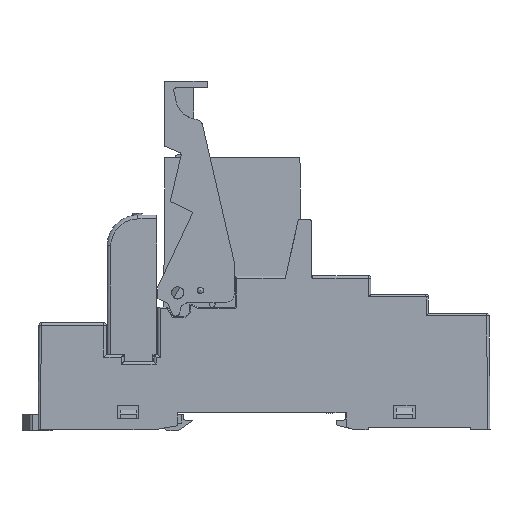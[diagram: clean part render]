
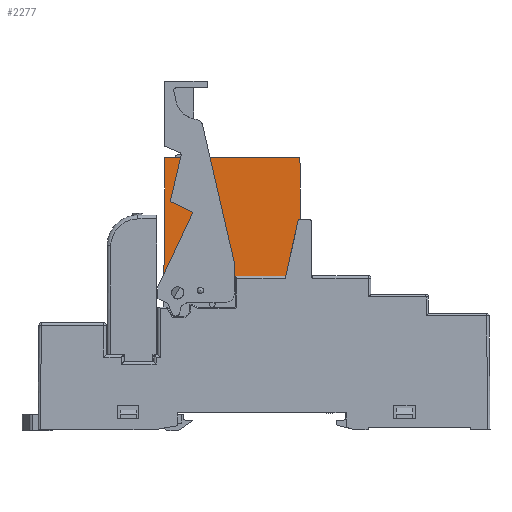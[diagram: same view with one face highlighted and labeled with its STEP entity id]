
A CAD part, front view. The second image highlights one B-rep face of the part: STEP entity #2277.
In plain terms, the highlighted planar face has unit normal (0, -1, 0.009).
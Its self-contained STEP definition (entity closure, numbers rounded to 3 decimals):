
#2277 = ADVANCED_FACE( '', ( #5916 ), #5917, .T. );
#5916 = FACE_OUTER_BOUND( '', #12760, .T. );
#5917 = PLANE( '', #12761 );
#12760 = EDGE_LOOP( '', ( #24431, #24432, #24433, #24434 ) );
#12761 = AXIS2_PLACEMENT_3D( '', #24435, #24436, #24437 );
#24431 = ORIENTED_EDGE( '', *, *, #37428, .T. );
#24432 = ORIENTED_EDGE( '', *, *, #37531, .T. );
#24433 = ORIENTED_EDGE( '', *, *, #37532, .F. );
#24434 = ORIENTED_EDGE( '', *, *, #37533, .T. );
#24435 = CARTESIAN_POINT( '', ( -2255.277, -459.897, -152.714 ) );
#24436 = DIRECTION( '', ( 0., -1., 0.009 ) );
#24437 = DIRECTION( '', ( -1., 0., 0. ) );
#37428 = EDGE_CURVE( '', #48069, #48070, #48071, .T. );
#37531 = EDGE_CURVE( '', #48070, #48250, #48251, .T. );
#37532 = EDGE_CURVE( '', #48252, #48250, #48253, .T. );
#37533 = EDGE_CURVE( '', #48252, #48069, #48254, .T. );
#48069 = VERTEX_POINT( '', #66802 );
#48070 = VERTEX_POINT( '', #66803 );
#48071 = LINE( '', #66804, #66805 );
#48250 = VERTEX_POINT( '', #67096 );
#48251 = LINE( '', #67097, #67098 );
#48252 = VERTEX_POINT( '', #67099 );
#48253 = LINE( '', #67100, #67101 );
#48254 = LINE( '', #67102, #67103 );
#66802 = CARTESIAN_POINT( '', ( -2253.827, -459.886, -151.464 ) );
#66803 = CARTESIAN_POINT( '', ( -2224.827, -459.886, -151.464 ) );
#66804 = CARTESIAN_POINT( '', ( -2255.277, -459.886, -151.464 ) );
#66805 = VECTOR( '', #90551, 1000. );
#67096 = CARTESIAN_POINT( '', ( -2225.045, -459.668, -126.464 ) );
#67097 = CARTESIAN_POINT( '', ( -2224.827, -459.886, -151.464 ) );
#67098 = VECTOR( '', #90654, 1000. );
#67099 = CARTESIAN_POINT( '', ( -2253.609, -459.668, -126.464 ) );
#67100 = CARTESIAN_POINT( '', ( -2221.927, -459.668, -126.464 ) );
#67101 = VECTOR( '', #90655, 1000. );
#67102 = CARTESIAN_POINT( '', ( -2253.609, -459.668, -126.464 ) );
#67103 = VECTOR( '', #90656, 1000. );
#90551 = DIRECTION( '', ( 1., 0., 0. ) );
#90654 = DIRECTION( '', ( -0.009, 0.009, 1. ) );
#90655 = DIRECTION( '', ( 1., 0., 0. ) );
#90656 = DIRECTION( '', ( -0.009, -0.009, -1. ) );
